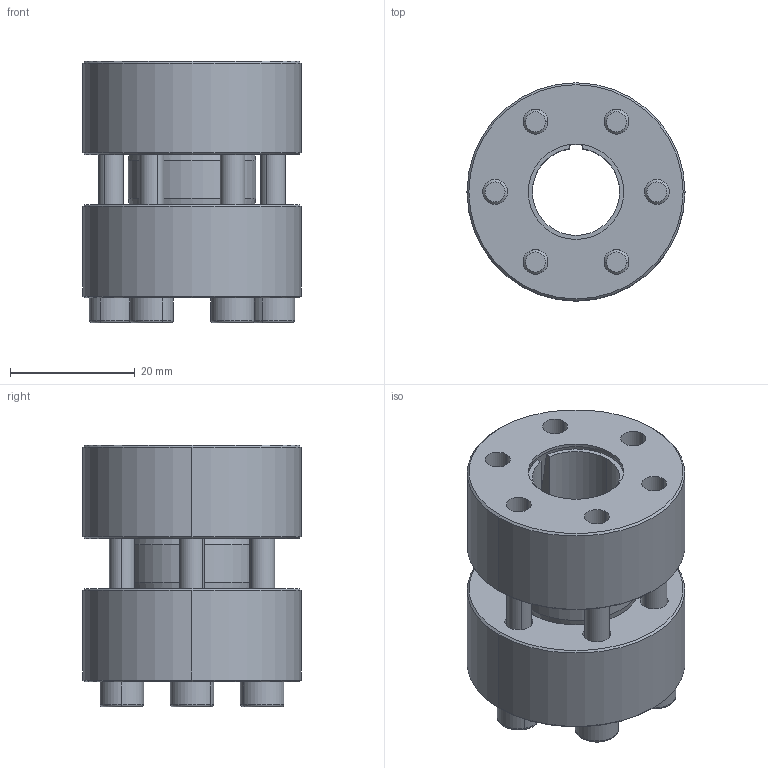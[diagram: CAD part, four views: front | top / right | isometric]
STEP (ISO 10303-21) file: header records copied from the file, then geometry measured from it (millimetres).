
FILE_DESCRIPTION (( 'STEP AP214' ), '1' );
FILE_NAME ('CONEX-M-14x35-M-004.step', '2014-07-01T12:12:24', ( 'Pc' ), ( '' ), 'SwSTEP 2.0', 'SolidWorks 2013', '' );
FILE_SCHEMA (( 'AUTOMOTIVE_DESIGN' ));
Length unit declared in the file: millimetre
Products named in the file (1): CONEX-M-14x35-M-004
Bounding box: 35 x 35 x 42.02 mm (x, y, z)
Volume: 25909.6 mm3; surface area: 16913.9 mm2
Topology: 9 solids, 9 shells, 226 faces, 506 edges, 298 vertices
Faces by surface type: plane 98, cylinder 62, cone 42, torus 24
Entity records: 8822 total; most frequent: DIRECTION 1182, CARTESIAN_POINT 1037, ORIENTED_EDGE 988, EDGE_CURVE 494, AXIS2_PLACEMENT_3D 465, VERTEX_POINT 298, EDGE_LOOP 266, LINE 252
